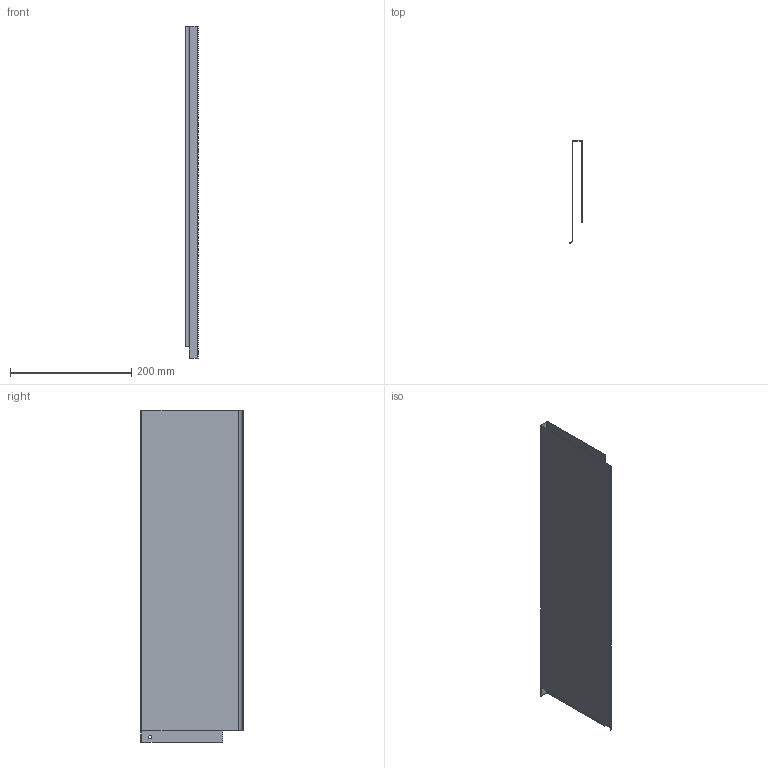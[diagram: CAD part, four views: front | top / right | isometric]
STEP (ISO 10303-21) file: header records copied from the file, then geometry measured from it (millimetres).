
FILE_DESCRIPTION (( 'STEP AP203' ), '1' );
FILE_NAME ('Nova Pro Duowing H186 HRW Classic rechts_NL550.step', '2014-02-14T11:58:10', ( 'test' ), ( '' ), 'SwSTEP 2.0', 'SolidWorks 2013', '' );
FILE_SCHEMA (( 'CONFIG_CONTROL_DESIGN' ));
Length unit declared in the file: millimetre
Products named in the file (1): Nova Pro Duowing H186 HRW Classic rechts_NL550
Bounding box: 20.72 x 169 x 547.5 mm (x, y, z)
Volume: 85802.5 mm3; surface area: 344084.5 mm2
Topology: 1 solids, 1 shells, 29 faces, 66 edges, 39 vertices
Faces by surface type: plane 20, cylinder 9
Entity records: 880 total; most frequent: DIRECTION 145, CARTESIAN_POINT 135, ORIENTED_EDGE 132, EDGE_CURVE 66, AXIS2_PLACEMENT_3D 49, LINE 47, VECTOR 47, VERTEX_POINT 39
